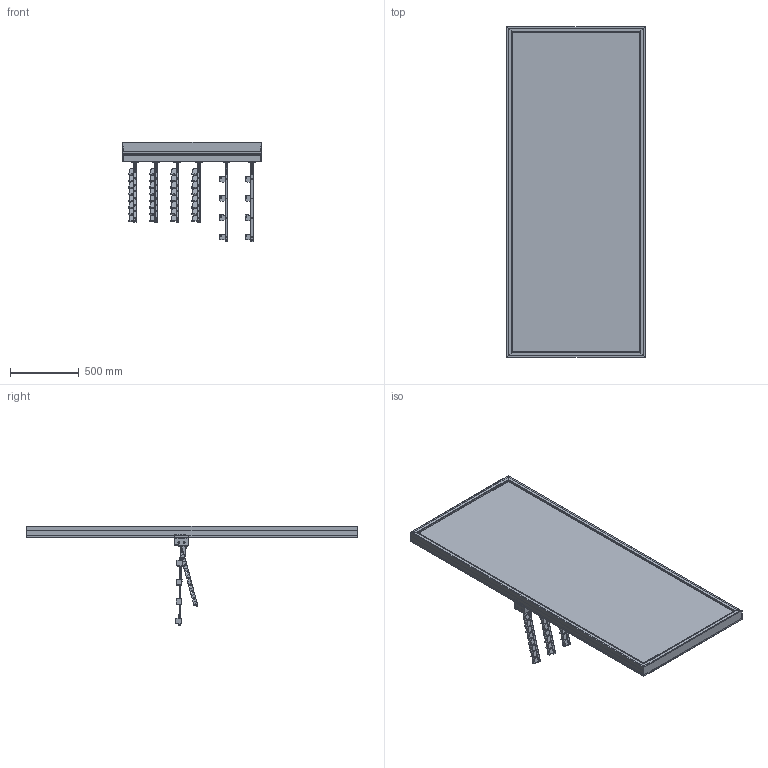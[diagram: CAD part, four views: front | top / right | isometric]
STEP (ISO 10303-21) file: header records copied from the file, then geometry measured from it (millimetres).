
FILE_DESCRIPTION (( 'STEP AP203' ), '1' );
FILE_NAME ('Slotted UpBright® Single Golf Club Wall Display.STEP', '2026-04-02T10:23:06', ( '' ), ( '' ), 'SwSTEP 2.0', 'SolidWorks 2025', '' );
FILE_SCHEMA (( 'CONFIG_CONTROL_DESIGN' ));
Length unit declared in the file: millimetre
Products named in the file (20): 0001-31-122; 0001-31-136; 0001-31-SA33 - Iron Arm; Slotted UpBright® Single Golf Club Wall Display; 0001-31-GA10 - 1005W Slotted upbright; 0001-31-125; 42283_For 1.5mm; BS EN ISO 10642 - M5 x 8 - 8N_BS EN ISO 10642 - M5 x 8 - 8N; 0001-31-SA32 - Driver Arm; 0001-31-126; Club holder; 0001-31-SA36 - 1005W Slatwall Extender; 0001-31-119; BS EN ISO 10642 - M6 x 16 - 16N_BS EN ISO 10642 - M6 x 16 - 16N; 0001-31-137; Iron moulding; Slotted UpBright® Single Golf Club Wall Display2; 0001-31-116; 0001-31-134; 0001-31-127
Assembly tree (50 placements, depth 4):
  Slotted UpBright® Single Golf Club Wall Display
    Slotted UpBright® Single Golf Club Wall Display2
      0001-31-SA36 - 1005W Slatwall Extender
        BS EN ISO 10642 - M6 x 16 - 16N_BS EN ISO 10642 - M6 x 16 - 16N  x4
        0001-31-137
        0001-31-136
        0001-31-134
      0001-31-SA32 - Driver Arm  x2
        0001-31-116
        0001-31-125
        0001-31-126
        0001-31-122
        Club holder
        BS EN ISO 10642 - M5 x 8 - 8N_BS EN ISO 10642 - M5 x 8 - 8N
        42283_For 1.5mm
      0001-31-SA33 - Iron Arm  x4
        0001-31-119
        0001-31-127
        0001-31-122
        0001-31-125
        Iron moulding
        BS EN ISO 10642 - M5 x 8 - 8N_BS EN ISO 10642 - M5 x 8 - 8N
        42283_For 1.5mm
      0001-31-GA10 - 1005W Slotted upbright
Bounding box: 1005.74 x 2400 x 721.34 mm (x, y, z)
Volume: 14817622.6 mm3; surface area: 13095146.7 mm2
Topology: 123 solids, 123 shells, 3548 faces, 9588 edges, 6112 vertices
Faces by surface type: plane 1936, cylinder 1054, cone 440, torus 100, bspline 18
Entity records: 40421 total; most frequent: CARTESIAN_POINT 8350, ORIENTED_EDGE 6490, DIRECTION 5515, EDGE_CURVE 3245, VECTOR 2747, LINE 2747, VERTEX_POINT 2150, AXIS2_PLACEMENT_3D 1384
